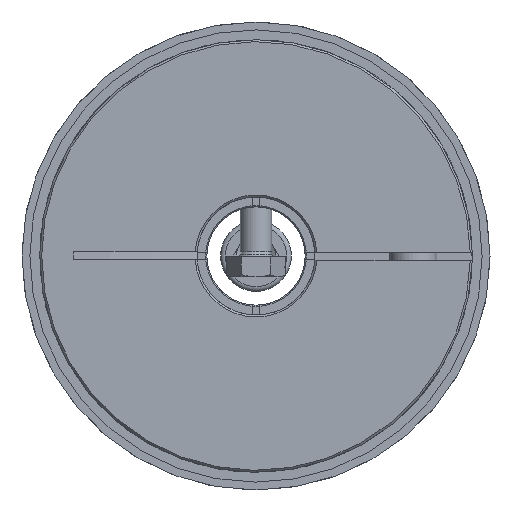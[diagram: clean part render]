
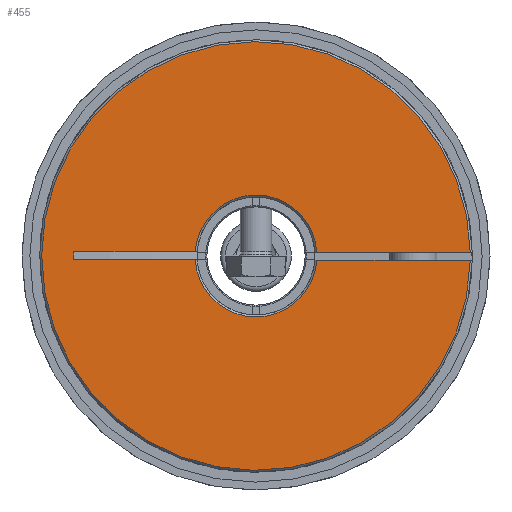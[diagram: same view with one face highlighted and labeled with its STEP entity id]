
A CAD part, left-side view. The second image highlights one B-rep face of the part: STEP entity #455.
In plain terms, the highlighted planar face has unit normal (-1, 0, 0).
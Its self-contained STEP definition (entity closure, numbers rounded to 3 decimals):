
#455 = ADVANCED_FACE( 'NONE', ( #922 ), #923, .F. );
#922 = FACE_OUTER_BOUND( '', #1484, .T. );
#923 = PLANE( '', #1485 );
#1484 = EDGE_LOOP( '', ( #2478, #2479, #2480, #2481, #2482, #2483, #2484, #2485 ) );
#1485 = AXIS2_PLACEMENT_3D( '', #2486, #2487, #2488 );
#2478 = ORIENTED_EDGE( '', *, *, #3117, .T. );
#2479 = ORIENTED_EDGE( '', *, *, #3102, .T. );
#2480 = ORIENTED_EDGE( '', *, *, #3113, .T. );
#2481 = ORIENTED_EDGE( '', *, *, #3119, .T. );
#2482 = ORIENTED_EDGE( '', *, *, #3120, .F. );
#2483 = ORIENTED_EDGE( '', *, *, #3121, .T. );
#2484 = ORIENTED_EDGE( '', *, *, #3122, .F. );
#2485 = ORIENTED_EDGE( '', *, *, #3099, .T. );
#2486 = CARTESIAN_POINT( '', ( 0., 15., 0. ) );
#2487 = DIRECTION( '', ( 1., 0., 0. ) );
#2488 = DIRECTION( '', ( 0., 1., 0. ) );
#3099 = EDGE_CURVE( 'NONE', #3577, #3581, #3583, .T. );
#3102 = EDGE_CURVE( 'NONE', #3589, #3587, #3590, .T. );
#3113 = EDGE_CURVE( 'NONE', #3587, #3608, #3609, .T. );
#3117 = EDGE_CURVE( 'NONE', #3581, #3589, #3614, .T. );
#3119 = EDGE_CURVE( 'NONE', #3608, #3617, #3618, .F. );
#3120 = EDGE_CURVE( 'NONE', #3619, #3617, #3620, .F. );
#3121 = EDGE_CURVE( 'NONE', #3619, #3621, #3622, .T. );
#3122 = EDGE_CURVE( 'NONE', #3577, #3621, #3623, .F. );
#3577 = VERTEX_POINT( 'NONE', #4758 );
#3581 = VERTEX_POINT( 'NONE', #4765 );
#3583 = LINE( '', #4767, #4768 );
#3587 = VERTEX_POINT( 'NONE', #4772 );
#3589 = VERTEX_POINT( 'NONE', #4777 );
#3590 = CIRCLE( '', #4778, 15.5 );
#3608 = VERTEX_POINT( 'NONE', #4804 );
#3609 = LINE( '', #4805, #4806 );
#3614 = LINE( '', #4815, #4816 );
#3617 = VERTEX_POINT( 'NONE', #4819 );
#3618 = CIRCLE( '', #4820, 54.5 );
#3619 = VERTEX_POINT( 'NONE', #4821 );
#3620 = LINE( '', #4822, #4823 );
#3621 = VERTEX_POINT( 'NONE', #4824 );
#3622 = CIRCLE( '', #4825, 15.5 );
#3623 = LINE( '', #4826, #4827 );
#4758 = CARTESIAN_POINT( '', ( 0., 46.303, -1. ) );
#4765 = CARTESIAN_POINT( '', ( 0., 46.303, 1. ) );
#4767 = CARTESIAN_POINT( '', ( 0., 46.303, -1. ) );
#4768 = VECTOR( '', #5434, 1000. );
#4772 = CARTESIAN_POINT( '', ( 0., -15.468, 1. ) );
#4777 = CARTESIAN_POINT( '', ( 0., 15.468, 1. ) );
#4778 = AXIS2_PLACEMENT_3D( '', #5438, #5439, #5440 );
#4804 = CARTESIAN_POINT( '', ( 0., -54.491, 1. ) );
#4805 = CARTESIAN_POINT( '', ( 0., 15., 1. ) );
#4806 = VECTOR( '', #5458, 1000. );
#4815 = CARTESIAN_POINT( '', ( 0., 15., 1. ) );
#4816 = VECTOR( '', #5463, 1000. );
#4819 = CARTESIAN_POINT( '', ( 0., -54.491, -1. ) );
#4820 = AXIS2_PLACEMENT_3D( '', #5467, #5468, #5469 );
#4821 = CARTESIAN_POINT( '', ( 0., -15.468, -1. ) );
#4822 = CARTESIAN_POINT( '', ( 0., -15., -1. ) );
#4823 = VECTOR( '', #5470, 1000. );
#4824 = CARTESIAN_POINT( '', ( 0., 15.468, -1. ) );
#4825 = AXIS2_PLACEMENT_3D( '', #5471, #5472, #5473 );
#4826 = CARTESIAN_POINT( '', ( 0., -15., -1. ) );
#4827 = VECTOR( '', #5474, 1000. );
#5434 = DIRECTION( '', ( 0., 0., 1. ) );
#5438 = CARTESIAN_POINT( '', ( 0., 0., 0. ) );
#5439 = DIRECTION( '', ( 1., 0., 0. ) );
#5440 = DIRECTION( '', ( 0., 0., -1. ) );
#5458 = DIRECTION( '', ( 0., -1., 0. ) );
#5463 = DIRECTION( '', ( 0., -1., 0. ) );
#5467 = CARTESIAN_POINT( '', ( 0., 0., 0. ) );
#5468 = DIRECTION( '', ( 1., 0., 0. ) );
#5469 = DIRECTION( '', ( 0., 0., -1. ) );
#5470 = DIRECTION( '', ( 0., 1., 0. ) );
#5471 = CARTESIAN_POINT( '', ( 0., 0., 0. ) );
#5472 = DIRECTION( '', ( 1., 0., 0. ) );
#5473 = DIRECTION( '', ( 0., 0., -1. ) );
#5474 = DIRECTION( '', ( 0., 1., 0. ) );
